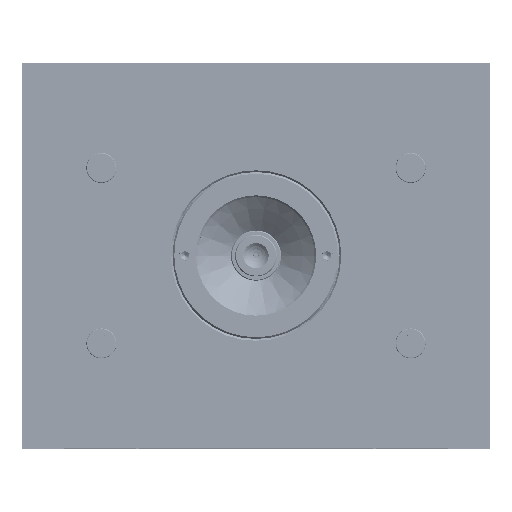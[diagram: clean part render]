
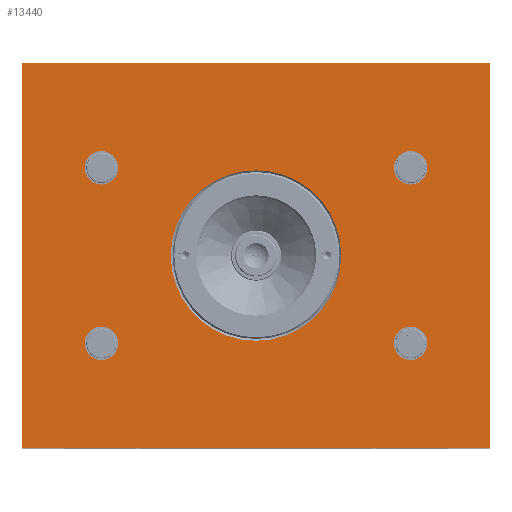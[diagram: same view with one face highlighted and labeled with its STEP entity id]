
A CAD part, top view. The second image highlights one B-rep face of the part: STEP entity #13440.
In plain terms, the highlighted planar face has unit normal (0, 0, 1).
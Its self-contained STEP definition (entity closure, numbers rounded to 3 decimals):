
#4455=FACE_BOUND('',#27552,.T.);
#4456=FACE_BOUND('',#27553,.T.);
#4457=FACE_BOUND('',#27554,.T.);
#4458=FACE_BOUND('',#27555,.T.);
#4459=FACE_BOUND('',#27556,.T.);
#4460=FACE_BOUND('',#27557,.T.);
#10120=CIRCLE('',#100187,51.);
#10121=CIRCLE('',#100188,10.);
#10122=CIRCLE('',#100189,10.);
#10123=CIRCLE('',#100190,10.);
#10124=CIRCLE('',#100191,10.);
#13440=ADVANCED_FACE('',(#4455,#4456,#4457,#4458,#4459,#4460),#18106,.T.);
#18106=PLANE('',#100192);
#27552=EDGE_LOOP('',(#41400));
#27553=EDGE_LOOP('',(#41401));
#27554=EDGE_LOOP('',(#41402));
#27555=EDGE_LOOP('',(#41403));
#27556=EDGE_LOOP('',(#41404));
#27557=EDGE_LOOP('',(#41405,#41406,#41407,#41408));
#41400=ORIENTED_EDGE('',*,*,#71531,.T.);
#41401=ORIENTED_EDGE('',*,*,#71532,.F.);
#41402=ORIENTED_EDGE('',*,*,#71533,.F.);
#41403=ORIENTED_EDGE('',*,*,#71534,.F.);
#41404=ORIENTED_EDGE('',*,*,#71535,.F.);
#41405=ORIENTED_EDGE('',*,*,#71536,.F.);
#41406=ORIENTED_EDGE('',*,*,#71537,.F.);
#41407=ORIENTED_EDGE('',*,*,#71538,.F.);
#41408=ORIENTED_EDGE('',*,*,#71539,.F.);
#61199=VERTEX_POINT('',#143952);
#61200=VERTEX_POINT('',#143954);
#61201=VERTEX_POINT('',#143956);
#61202=VERTEX_POINT('',#143958);
#61203=VERTEX_POINT('',#143960);
#61204=VERTEX_POINT('',#143962);
#61205=VERTEX_POINT('',#143963);
#61206=VERTEX_POINT('',#143965);
#61207=VERTEX_POINT('',#143967);
#71531=EDGE_CURVE('',#61199,#61199,#10120,.T.);
#71532=EDGE_CURVE('',#61200,#61200,#10121,.T.);
#71533=EDGE_CURVE('',#61201,#61201,#10122,.T.);
#71534=EDGE_CURVE('',#61202,#61202,#10123,.T.);
#71535=EDGE_CURVE('',#61203,#61203,#10124,.T.);
#71536=EDGE_CURVE('',#61204,#61205,#82306,.T.);
#71537=EDGE_CURVE('',#61206,#61204,#82307,.T.);
#71538=EDGE_CURVE('',#61207,#61206,#82308,.T.);
#71539=EDGE_CURVE('',#61205,#61207,#82309,.T.);
#82306=LINE('',#143961,#90631);
#82307=LINE('',#143964,#90632);
#82308=LINE('',#143966,#90633);
#82309=LINE('',#143968,#90634);
#90631=VECTOR('',#114433,1.);
#90632=VECTOR('',#114434,1.);
#90633=VECTOR('',#114435,1.);
#90634=VECTOR('',#114436,1.);
#100187=AXIS2_PLACEMENT_3D('',#143951,#114423,#114424);
#100188=AXIS2_PLACEMENT_3D('',#143953,#114425,#114426);
#100189=AXIS2_PLACEMENT_3D('',#143955,#114427,#114428);
#100190=AXIS2_PLACEMENT_3D('',#143957,#114429,#114430);
#100191=AXIS2_PLACEMENT_3D('',#143959,#114431,#114432);
#100192=AXIS2_PLACEMENT_3D('',#143969,#114437,#114438);
#114423=DIRECTION('',(0.,0.,-1.));
#114424=DIRECTION('',(1.,0.,0.));
#114425=DIRECTION('',(0.,0.,1.));
#114426=DIRECTION('',(1.,0.,0.));
#114427=DIRECTION('',(0.,0.,1.));
#114428=DIRECTION('',(1.,0.,0.));
#114429=DIRECTION('',(0.,0.,1.));
#114430=DIRECTION('',(1.,0.,0.));
#114431=DIRECTION('',(0.,0.,1.));
#114432=DIRECTION('',(1.,0.,0.));
#114433=DIRECTION('',(-1.,0.,0.));
#114434=DIRECTION('',(0.,-1.,0.));
#114435=DIRECTION('',(1.,0.,0.));
#114436=DIRECTION('',(0.,1.,0.));
#114437=DIRECTION('',(0.,0.,1.));
#114438=DIRECTION('',(1.,0.,0.));
#143951=CARTESIAN_POINT('',(0.,0.,105.5));
#143952=CARTESIAN_POINT('',(51.,0.,105.5));
#143953=CARTESIAN_POINT('',(92.5,52.5,105.5));
#143954=CARTESIAN_POINT('',(102.5,52.5,105.5));
#143955=CARTESIAN_POINT('',(92.5,-52.5,105.5));
#143956=CARTESIAN_POINT('',(102.5,-52.5,105.5));
#143957=CARTESIAN_POINT('',(-92.5,52.5,105.5));
#143958=CARTESIAN_POINT('',(-82.5,52.5,105.5));
#143959=CARTESIAN_POINT('',(-92.5,-52.5,105.5));
#143960=CARTESIAN_POINT('',(-82.5,-52.5,105.5));
#143961=CARTESIAN_POINT('',(0.,-115.,105.5));
#143962=CARTESIAN_POINT('',(140.,-115.,105.5));
#143963=CARTESIAN_POINT('',(-140.,-115.,105.5));
#143964=CARTESIAN_POINT('',(140.,0.,105.5));
#143965=CARTESIAN_POINT('',(140.,115.,105.5));
#143966=CARTESIAN_POINT('',(0.,115.,105.5));
#143967=CARTESIAN_POINT('',(-140.,115.,105.5));
#143968=CARTESIAN_POINT('',(-140.,0.,105.5));
#143969=CARTESIAN_POINT('',(0.,0.,105.5));
